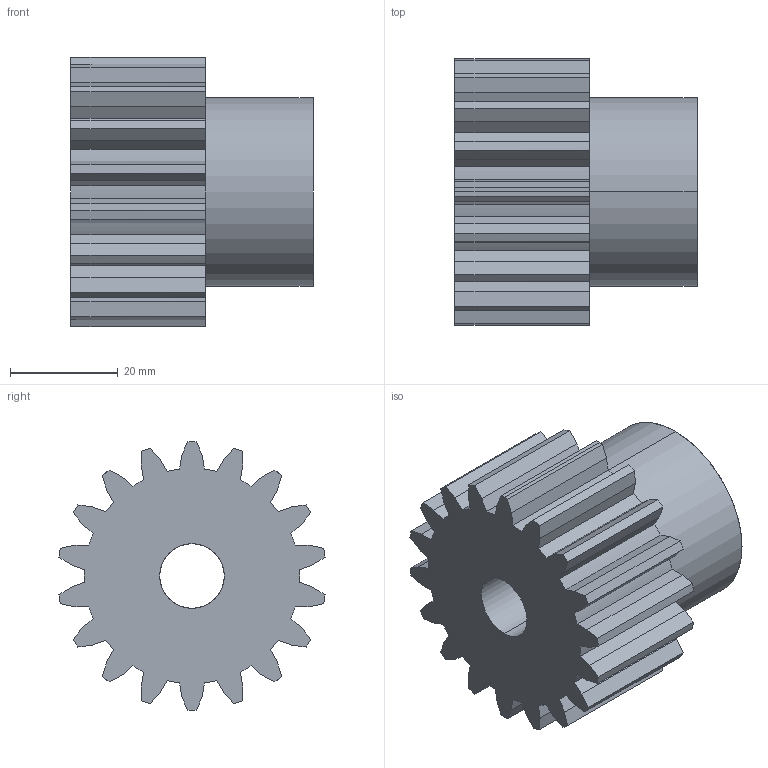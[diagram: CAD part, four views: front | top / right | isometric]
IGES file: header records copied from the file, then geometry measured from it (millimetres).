
Start section: SolidWorks IGES file using analytic representation for surfaces
Global section: file name: C:\Users\Honza\Desktop\Matis (Hotove)\Èelní ozubená kola\PM\MODUL 2,5\PM 29018.IGS; native system: SolidWorks 2010; preprocessor: SolidWorks 2010; author: Honza; date: 130925.144332; units: millimetre
Bounding box: 45 x 49.5 x 50 mm (x, y, z)
Surface area: 13427.6 mm2 (no closed solid volume)
Topology: 0 solids, 0 shells, 116 faces, 870 edges, 870 vertices
Faces by surface type: bspline 75, revolution 41
